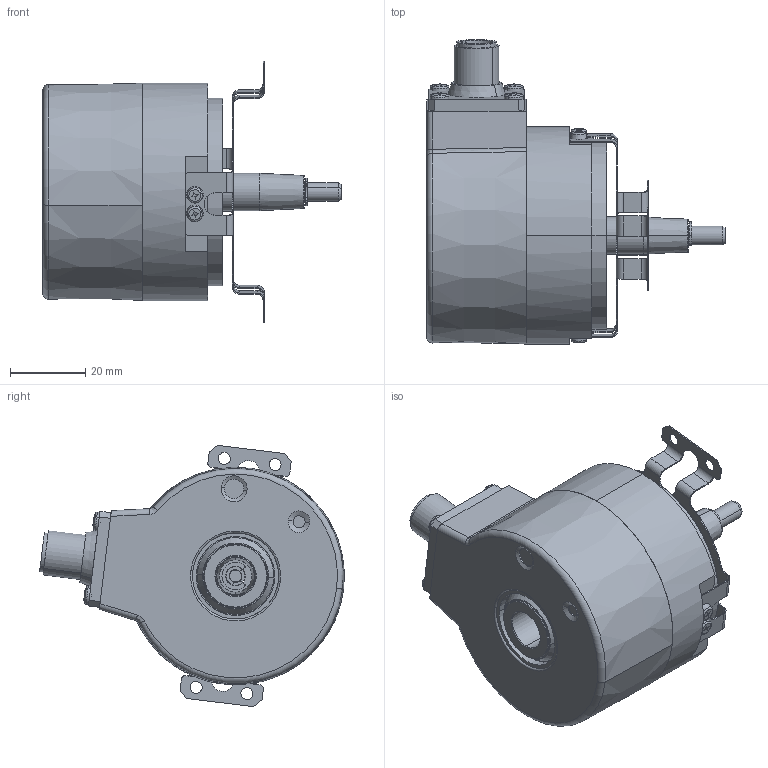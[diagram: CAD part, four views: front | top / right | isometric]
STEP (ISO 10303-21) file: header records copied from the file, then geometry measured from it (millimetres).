
FILE_DESCRIPTION (( 'STEP AP214' ), '1' );
FILE_NAME ('5834SIL.BKX6.XXXX.STEP', '2010-11-18T13:23:10', ( 'admin' ), ( 'Fritz Kübler GmbH' ), 'SwSTEP 2.0', 'SolidWorks 2009', '' );
FILE_SCHEMA (( 'AUTOMOTIVE_DESIGN' ));
Length unit declared in the file: millimetre
Products named in the file (1): 5834SIL.BKX6.XXXX
Bounding box: 79.5 x 81.25 x 69.69 mm (x, y, z)
Surface area: 26137 mm2 (no closed solid volume)
Topology: 0 solids, 27 shells, 447 faces, 1222 edges, 781 vertices
Faces by surface type: plane 210, cylinder 135, cone 36, torus 34, sphere 24, bspline 8
Entity records: 19963 total; most frequent: CARTESIAN_POINT 3623, DIRECTION 2587, ORIENTED_EDGE 2136, EDGE_CURVE 1190, AXIS2_PLACEMENT_3D 987, VERTEX_POINT 765, VECTOR 613, LINE 613
